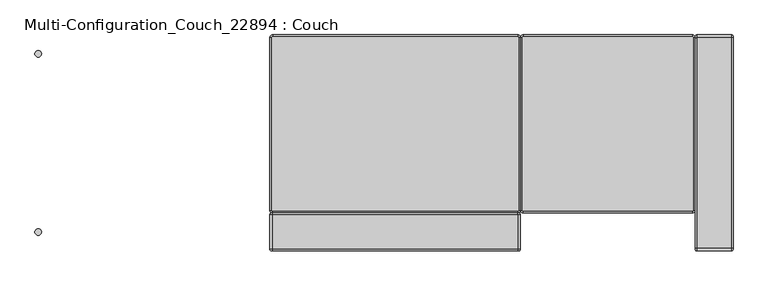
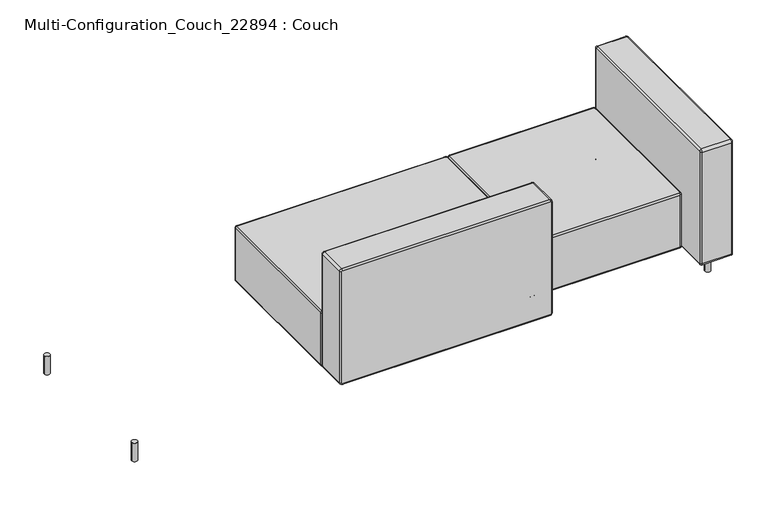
"""IFC4 building model written with IfcOpenShell, lengths in millimetres: furniture geometry, Multi-Configuration_Couch_22894 : Couch."""

from ifc_helpers import new_model, si_unit, point, frame, frame_2d, origin, origin_with_axes, place, context, project, spatial, circle_curve, ellipse_curve, trimmed, segment, composite_curve, outline, extrude, source, transform, mapped, element, save
from ifc_brep_helpers import plane_surface, cylinder_surface, revolved_surface, advanced_brep


def multi_configuration_couch_22894_couch_a3e35ec5(model_context):
    return source(origin(), model_context, "Body", "SolidModel", [
        advanced_brep(
        [(1278.2237705, -114.3520492, 304.8), (1275.0487705, -111.1770492, 304.8), (709.8987705, -111.1770492, 304.8), (706.7237705, -114.3520492, 304.8), (706.7237705, -692.2020492, 304.8), (709.8987705, -695.3770492, 304.8), (1275.0487705, -695.3770492, 304.8), (1278.2237705, -692.2020492, 304.8), (1278.2237705, -692.2020492, 76.2), (1275.0487705, -695.3770492, 76.2), (709.8987705, -695.3770492, 76.2), (706.7237705, -692.2020492, 76.2), (706.7237705, -114.3520492, 76.2), (709.8987705, -111.1770492, 76.2), (1275.0487705, -111.1770492, 76.2), (1278.2237705, -114.3520492, 76.2), (1275.0487705, -104.8270492, 298.45), (1275.0487705, -104.8270492, 82.55), (709.8987705, -104.8270492, 82.55), (709.8987705, -104.8270492, 298.4500064), (1284.5737705, -692.2020492, 298.45), (1284.5737705, -692.2020492, 82.55), (1284.5737705, -114.3520492, 82.55), (1284.5737705, -114.3520492, 298.45), (709.8987705, -701.7270492, 298.45), (709.8987705, -701.7270492, 82.55), (1275.0487705, -701.7270492, 82.55), (1275.0487705, -701.7270492, 298.45), (700.3737705, -114.3520492, 298.45), (700.3737705, -114.3520492, 82.55), (700.3737705, -692.2020492, 82.55), (700.3737705, -692.2020492, 298.45)],
        [
            (0, 1, circle_curve(frame((1275.0487705, -114.3520492, 304.8), z_axis=(0.0, 0.0, 1.0), x_axis=(0.0, 1.0, 0.0)), 3.175)),
            (1, 2),
            (2, 3, circle_curve(frame((709.8987705, -114.3520492, 304.8), z_axis=(0.0, 0.0, 1.0), x_axis=(-1.0, 0.0, 0.0)), 3.175)),
            (3, 4),
            (4, 5, circle_curve(frame((709.8987705, -692.2020492, 304.8), z_axis=(0.0, 0.0, 1.0), x_axis=(0.0, -1.0, 0.0)), 3.175)),
            (5, 6),
            (6, 7, circle_curve(frame((1275.0487705, -692.2020492, 304.8), z_axis=(0.0, 0.0, 1.0), x_axis=(1.0, 0.0, 0.0)), 3.175)),
            (7, 0),
            (8, 9, circle_curve(frame((1275.0487705, -692.2020492, 76.2), z_axis=(0.0, 0.0, -1.0), x_axis=(1.0, 0.0, 0.0)), 3.175)),
            (9, 10),
            (10, 11, circle_curve(frame((709.8987705, -692.2020492, 76.2), z_axis=(0.0, 0.0, -1.0), x_axis=(0.0, -1.0, 0.0)), 3.175)),
            (11, 12),
            (12, 13, circle_curve(frame((709.8987705, -114.3520492, 76.2), z_axis=(0.0, 0.0, -1.0), x_axis=(-1.0, 0.0, 0.0)), 3.175)),
            (13, 14),
            (14, 15, circle_curve(frame((1275.0487705, -114.3520492, 76.2), z_axis=(0.0, 0.0, -1.0), x_axis=(0.0, 1.0, 0.0)), 3.175)),
            (15, 8),
            (16, 17),
            (17, 18),
            (18, 19),
            (19, 16),
            (20, 21),
            (21, 22),
            (22, 23),
            (23, 20),
            (24, 25),
            (25, 26),
            (26, 27),
            (27, 24),
            (28, 29),
            (29, 30),
            (30, 31),
            (31, 28),
            (22, 17, circle_curve(frame((1275.0487705, -114.3520492, 82.55), z_axis=(0.0, 0.0, 1.0), x_axis=(-1.0, 0.0, 0.0)), 9.525)),
            (16, 23, circle_curve(frame((1275.0487705, -114.3520492, 298.45), z_axis=(0.0, 0.0, -1.0), x_axis=(-1.0, 0.0, 0.0)), 9.525)),
            (18, 29, circle_curve(frame((709.8987705, -114.3520492, 82.55), z_axis=(0.0, 0.0, 1.0), x_axis=(-1.0, 0.0, 0.0)), 9.525)),
            (28, 19, circle_curve(frame((709.8987705, -114.3520492, 298.45), z_axis=(0.0, 0.0, -1.0), x_axis=(-1.0, 0.0, 0.0)), 9.525)),
            (26, 21, circle_curve(frame((1275.0487705, -692.2020492, 82.55), z_axis=(0.0, 0.0, 1.0), x_axis=(-1.0, 0.0, 0.0)), 9.525)),
            (20, 27, circle_curve(frame((1275.0487705, -692.2020492, 298.45), z_axis=(0.0, 0.0, -1.0), x_axis=(-1.0, 0.0, 0.0)), 9.525)),
            (30, 25, circle_curve(frame((709.8987705, -692.2020492, 82.55), z_axis=(0.0, 0.0, 1.0), x_axis=(-1.0, 0.0, 0.0)), 9.525)),
            (24, 31, circle_curve(frame((709.8987705, -692.2020492, 298.45), z_axis=(0.0, 0.0, -1.0), x_axis=(-1.0, 0.0, 0.0)), 9.525)),
            (23, 0, circle_curve(frame((1278.2237705, -114.3520492, 298.45), z_axis=(0.0, -1.0, 0.0), x_axis=(-1.0, 0.0, 0.0)), 6.35)),
            (7, 20, circle_curve(frame((1278.2237705, -692.2020492, 298.45), z_axis=(0.0, 1.0, 0.0), x_axis=(-1.0, 0.0, 0.0)), 6.35)),
            (27, 6, circle_curve(frame((1275.0487705, -695.3770492, 298.45), z_axis=(-1.0, 0.0, 0.0), x_axis=(0.0, 1.0, 0.0)), 6.35)),
            (5, 24, circle_curve(frame((709.8987705, -695.3770492, 298.45), z_axis=(1.0, 0.0, 0.0), x_axis=(0.0, 1.0, 0.0)), 6.35)),
            (31, 4, circle_curve(frame((706.7237705, -692.2020492, 298.45), z_axis=(0.0, 1.0, 0.0), x_axis=(1.0, 0.0, 0.0)), 6.35)),
            (3, 28, circle_curve(frame((706.7237705, -114.3520492, 298.45), z_axis=(0.0, -1.0, 0.0), x_axis=(1.0, 0.0, 0.0)), 6.35)),
            (2, 19, circle_curve(frame((709.8987705, -111.1770492, 298.45), z_axis=(-1.0, 0.0, 0.0), x_axis=(0.0, -1.0, 0.0)), 6.35)),
            (1, 16, circle_curve(frame((1275.0487705, -111.1770492, 298.45), z_axis=(-1.0, 0.0, 0.0), x_axis=(0.0, -1.0, 0.0)), 6.35)),
            (15, 22, circle_curve(frame((1278.2237705, -114.3520492, 82.55), z_axis=(0.0, -1.0, 0.0), x_axis=(-1.0, 0.0, 0.0)), 6.35)),
            (21, 8, circle_curve(frame((1278.2237705, -692.2020492, 82.55), z_axis=(0.0, 1.0, 0.0), x_axis=(-1.0, 0.0, 0.0)), 6.35)),
            (9, 26, circle_curve(frame((1275.0487705, -695.3770492, 82.55), z_axis=(-1.0, 0.0, 0.0), x_axis=(0.0, 1.0, 0.0)), 6.35)),
            (25, 10, circle_curve(frame((709.8987705, -695.3770492, 82.55), z_axis=(1.0, 0.0, 0.0), x_axis=(0.0, 1.0, 0.0)), 6.35)),
            (11, 30, circle_curve(frame((706.7237705, -692.2020492, 82.55), z_axis=(0.0, 1.0, 0.0), x_axis=(1.0, 0.0, 0.0)), 6.35)),
            (29, 12, circle_curve(frame((706.7237705, -114.3520492, 82.55), z_axis=(0.0, -1.0, 0.0), x_axis=(1.0, 0.0, 0.0)), 6.35)),
            (13, 18, circle_curve(frame((709.8987705, -111.1770492, 82.55), z_axis=(1.0, 0.0, 0.0), x_axis=(0.0, -1.0, 0.0)), 6.35)),
            (17, 14, circle_curve(frame((1275.0487705, -111.1770492, 82.55), z_axis=(-1.0, 0.0, 0.0), x_axis=(0.0, -1.0, 0.0)), 6.35)),
        ],
        [
            plane_surface(frame((1284.5737705, -104.8270492, 304.8), z_axis=(0.0, 0.0, 1.0), x_axis=(1.0, 0.0, 0.0))),
            plane_surface(frame((1284.5737705, -104.8270492, 76.2), z_axis=(0.0, 0.0, -1.0), x_axis=(-1.0, 0.0, 0.0))),
            plane_surface(frame((700.3737705, -104.8270492, 304.8), z_axis=(0.0, 1.0, 0.0), x_axis=(0.0, 0.0, -1.0))),
            plane_surface(frame((1284.5737705, -104.8270492, 304.8), z_axis=(1.0, 0.0, 0.0), x_axis=(0.0, 0.0, -1.0))),
            plane_surface(frame((1284.5737705, -701.7270492, 304.8), z_axis=(0.0, -1.0, 0.0), x_axis=(0.0, 0.0, -1.0))),
            plane_surface(frame((700.3737705, -701.7270492, 304.8), z_axis=(-1.0, 0.0, 0.0), x_axis=(0.0, 0.0, -1.0))),
            cylinder_surface(frame((1275.0487705, -114.3520492, 76.2), z_axis=(0.0, 0.0, -1.0), x_axis=(-1.0, 0.0, 0.0)), 9.525),
            cylinder_surface(frame((709.8987705, -114.3520492, 76.2), z_axis=(0.0, 0.0, -1.0), x_axis=(-1.0, 0.0, 0.0)), 9.525),
            cylinder_surface(frame((1275.0487705, -692.2020492, 76.2), z_axis=(0.0, 0.0, -1.0), x_axis=(-1.0, 0.0, 0.0)), 9.525),
            cylinder_surface(frame((709.8987705, -692.2020492, 76.2), z_axis=(0.0, 0.0, -1.0), x_axis=(-1.0, 0.0, 0.0)), 9.525),
            cylinder_surface(frame((1278.2237705, -114.3520492, 298.45), z_axis=(0.0, -1.0, 0.0), x_axis=(-1.0, 0.0, 0.0)), 6.35),
            cylinder_surface(frame((1275.0487705, -695.3770492, 298.45), z_axis=(-1.0, 0.0, 0.0), x_axis=(0.0, 1.0, 0.0)), 6.35),
            cylinder_surface(frame((706.7237705, -692.2020492, 298.45), z_axis=(0.0, 1.0, 0.0), x_axis=(1.0, 0.0, 0.0)), 6.35),
            revolved_surface(trimmed(ellipse_curve(frame((706.7237705, -114.3520492, 298.45), z_axis=(0.0, 1.0, 0.0), x_axis=(1.0, 0.0, 0.0)), 6.35, 6.35), [point((700.3737705, -114.3520492, 298.45))], [point((706.7237705, -114.3520492, 304.8))], True, "CARTESIAN"), (709.8987705, -114.3520492, 304.8), (0.0, 0.0, 1.0)),
            cylinder_surface(frame((709.8987705, -111.1770492, 298.45), z_axis=(1.0, 0.0, 0.0), x_axis=(0.0, -1.0, 0.0)), 6.35),
            cylinder_surface(frame((1278.2237705, -114.3520492, 82.55), z_axis=(0.0, -1.0, 0.0), x_axis=(-1.0, 0.0, 0.0)), 6.35),
            cylinder_surface(frame((1275.0487705, -695.3770492, 82.55), z_axis=(-1.0, 0.0, 0.0), x_axis=(0.0, 1.0, 0.0)), 6.35),
            cylinder_surface(frame((706.7237705, -692.2020492, 82.55), z_axis=(0.0, 1.0, 0.0), x_axis=(1.0, 0.0, 0.0)), 6.35),
            cylinder_surface(frame((709.8987705, -111.1770492, 82.55), z_axis=(1.0, 0.0, 0.0), x_axis=(0.0, -1.0, 0.0)), 6.35),
            revolved_surface(trimmed(ellipse_curve(frame((1275.0487705, -111.1770492, 298.45), z_axis=(1.0, 0.0, 0.0), x_axis=(0.0, -1.0, 0.0)), 6.35, 6.35), [point((1275.0487705, -104.8270492, 298.45))], [point((1275.0487705, -111.1770492, 304.8))], True, "CARTESIAN"), (1275.0487705, -114.3520492, 304.8), (0.0, 0.0, 1.0)),
            revolved_surface(trimmed(ellipse_curve(frame((1278.2237705, -692.2020492, 298.45), z_axis=(0.0, -1.0, 0.0), x_axis=(-1.0, 0.0, 0.0)), 6.35, 6.35), [point((1284.5737705, -692.2020492, 298.45))], [point((1278.2237705, -692.2020492, 304.8))], True, "CARTESIAN"), (1275.0487705, -692.2020492, 304.8), (0.0, 0.0, 1.0)),
            revolved_surface(trimmed(ellipse_curve(frame((709.8987705, -695.3770492, 298.45), z_axis=(-1.0, 0.0, 0.0), x_axis=(0.0, 1.0, 0.0)), 6.35, 6.35), [point((709.8987705, -701.7270492, 298.45))], [point((709.8987705, -695.3770492, 304.8))], True, "CARTESIAN"), (709.8987705, -692.2020492, 304.8), (0.0, 0.0, 1.0)),
            revolved_surface(trimmed(ellipse_curve(frame((1275.0487705, -111.1770492, 82.55), z_axis=(1.0, 0.0, 0.0), x_axis=(0.0, -1.0, 0.0)), 6.35, 6.35), [point((1275.0487705, -111.1770492, 76.2))], [point((1275.0487705, -104.8270492, 82.55))], True, "CARTESIAN"), (1275.0487705, -114.3520492, 76.2), (0.0, 0.0, 1.0)),
            revolved_surface(trimmed(ellipse_curve(frame((1278.2237705, -692.2020492, 82.55), z_axis=(0.0, -1.0, 0.0), x_axis=(-1.0, 0.0, 0.0)), 6.35, 6.35), [point((1278.2237705, -692.2020492, 76.2))], [point((1284.5737705, -692.2020492, 82.55))], True, "CARTESIAN"), (1275.0487705, -692.2020492, 76.2), (0.0, 0.0, 1.0)),
            revolved_surface(trimmed(ellipse_curve(frame((709.8987705, -695.3770492, 82.55), z_axis=(-1.0, 0.0, 0.0), x_axis=(0.0, 1.0, 0.0)), 6.35, 6.35), [point((709.8987705, -695.3770492, 76.2))], [point((709.8987705, -701.7270492, 82.55))], True, "CARTESIAN"), (709.8987705, -692.2020492, 76.2), (0.0, 0.0, 1.0)),
            revolved_surface(trimmed(ellipse_curve(frame((706.7237705, -114.3520492, 82.55), z_axis=(0.0, 1.0, 0.0), x_axis=(1.0, 0.0, 0.0)), 6.35, 6.35), [point((706.7237705, -114.3520492, 76.2))], [point((700.3737705, -114.3520492, 82.55))], True, "CARTESIAN"), (709.8987705, -114.3520492, 76.2), (0.0, 0.0, 1.0)),
        ],
        [
            (0, [[1, 2, 3, 4, 5, 6, 7, 8]]),
            (1, [[9, 10, 11, 12, 13, 14, 15, 16]]),
            (2, [[17, 18, 19, 20]]),
            (3, [[21, 22, 23, 24]]),
            (4, [[25, 26, 27, 28]]),
            (5, [[29, 30, 31, 32]]),
            (6, [[-23, 33, -17, 34]]),
            (7, [[-19, 35, -29, 36]]),
            (8, [[-27, 37, -21, 38]]),
            (9, [[-31, 39, -25, 40]]),
            (10, [[-24, 41, -8, 42]]),
            (11, [[-28, 43, -6, 44]]),
            (12, [[-32, 45, -4, 46]]),
            (13, [[-3, 47, -36, -46]]),
            (14, [[-2, 48, -20, -47]]),
            (15, [[-16, 49, -22, 50]]),
            (16, [[-10, 51, -26, 52]]),
            (17, [[-12, 53, -30, 54]]),
            (18, [[-14, 55, -18, 56]]),
            (19, [[-34, -48, -1, -41]]),
            (20, [[-7, -43, -38, -42]]),
            (21, [[-5, -45, -40, -44]]),
            (22, [[-15, -56, -33, -49]]),
            (23, [[-37, -51, -9, -50]]),
            (24, [[-39, -53, -11, -52]]),
            (25, [[-35, -55, -13, -54]]),
        ],
    ),
        advanced_brep(
        [(-131.4762295, -701.7270492, 549.275), (-128.3012295, -701.7270492, 552.45), (690.8487705, -701.7270492, 552.45), (694.0237705, -701.7270492, 549.275), (694.0237705, -701.7270492, 85.725), (690.8487705, -701.7270492, 82.55), (-128.3012295, -701.7270492, 82.55), (-131.4762295, -701.7270492, 85.725), (-131.4762295, -828.7270492, 85.725), (-128.3012295, -828.7270492, 82.55), (690.8487705, -828.7270492, 82.55), (694.0237705, -828.7270492, 85.725), (694.0237705, -828.7270492, 549.275), (690.8487705, -828.7270492, 552.45), (-128.3012295, -828.7270492, 552.45), (-131.4762295, -828.7270492, 549.275), (-128.3012295, -708.0770492, 558.8), (-128.3012295, -822.3770492, 558.8), (690.8487705, -822.3770492, 558.8), (690.8487705, -708.0770428, 558.8), (-137.8262295, -708.0770492, 85.725), (-137.8262295, -822.3770492, 85.725), (-137.8262295, -822.3770492, 549.275), (-137.8262295, -708.0770492, 549.275), (690.8487705, -708.0770492, 76.2), (690.8487705, -822.3770492, 76.2), (-128.3012295, -822.3770492, 76.2), (-128.3012295, -708.0770492, 76.2), (700.3737705, -708.0770492, 549.275), (700.3737705, -822.3770492, 549.275), (700.3737705, -822.3770492, 85.725), (700.3737705, -708.0770492, 85.725)],
        [
            (0, 1, circle_curve(frame((-128.3012295, -701.7270492, 549.275), z_axis=(0.0, 1.0, 0.0), x_axis=(0.0, 0.0, 1.0)), 3.175)),
            (1, 2),
            (2, 3, circle_curve(frame((690.8487705, -701.7270492, 549.275), z_axis=(0.0, 1.0, 0.0), x_axis=(1.0, 0.0, 0.0)), 3.175)),
            (3, 4),
            (4, 5, circle_curve(frame((690.8487705, -701.7270492, 85.725), z_axis=(0.0, 1.0, 0.0), x_axis=(0.0, 0.0, -1.0)), 3.175)),
            (5, 6),
            (6, 7, circle_curve(frame((-128.3012295, -701.7270492, 85.725), z_axis=(0.0, 1.0, 0.0), x_axis=(-1.0, 0.0, 0.0)), 3.175)),
            (7, 0),
            (8, 9, circle_curve(frame((-128.3012295, -828.7270492, 85.725), z_axis=(0.0, -1.0, 0.0), x_axis=(-1.0, 0.0, 0.0)), 3.175)),
            (9, 10),
            (10, 11, circle_curve(frame((690.8487705, -828.7270492, 85.725), z_axis=(0.0, -1.0, 0.0), x_axis=(0.0, 0.0, -1.0)), 3.175)),
            (11, 12),
            (12, 13, circle_curve(frame((690.8487705, -828.7270492, 549.275), z_axis=(0.0, -1.0, 0.0), x_axis=(1.0, 0.0, 0.0)), 3.175)),
            (13, 14),
            (14, 15, circle_curve(frame((-128.3012295, -828.7270492, 549.275), z_axis=(0.0, -1.0, 0.0), x_axis=(0.0, 0.0, 1.0)), 3.175)),
            (15, 8),
            (16, 17),
            (17, 18),
            (18, 19),
            (19, 16),
            (20, 21),
            (21, 22),
            (22, 23),
            (23, 20),
            (24, 25),
            (25, 26),
            (26, 27),
            (27, 24),
            (28, 29),
            (29, 30),
            (30, 31),
            (31, 28),
            (22, 17, circle_curve(frame((-128.3012295, -822.3770492, 549.275), z_axis=(0.0, 1.0, 0.0), x_axis=(1.0, 0.0, 0.0)), 9.525)),
            (16, 23, circle_curve(frame((-128.3012295, -708.0770492, 549.275), z_axis=(0.0, -1.0, 0.0), x_axis=(1.0, 0.0, 0.0)), 9.525)),
            (18, 29, circle_curve(frame((690.8487705, -822.3770492, 549.275), z_axis=(0.0, 1.0, 0.0), x_axis=(1.0, 0.0, 0.0)), 9.525)),
            (28, 19, circle_curve(frame((690.8487705, -708.0770492, 549.275), z_axis=(0.0, -1.0, 0.0), x_axis=(1.0, 0.0, 0.0)), 9.525)),
            (26, 21, circle_curve(frame((-128.3012295, -822.3770492, 85.725), z_axis=(0.0, 1.0, 0.0), x_axis=(1.0, 0.0, 0.0)), 9.525)),
            (20, 27, circle_curve(frame((-128.3012295, -708.0770492, 85.725), z_axis=(0.0, -1.0, 0.0), x_axis=(1.0, 0.0, 0.0)), 9.525)),
            (30, 25, circle_curve(frame((690.8487705, -822.3770492, 85.725), z_axis=(0.0, 1.0, 0.0), x_axis=(1.0, 0.0, 0.0)), 9.525)),
            (24, 31, circle_curve(frame((690.8487705, -708.0770492, 85.725), z_axis=(0.0, -1.0, 0.0), x_axis=(1.0, 0.0, 0.0)), 9.525)),
            (23, 0, circle_curve(frame((-131.4762295, -708.0770492, 549.275), z_axis=(0.0, 0.0, -1.0), x_axis=(1.0, 0.0, 0.0)), 6.35)),
            (7, 20, circle_curve(frame((-131.4762295, -708.0770492, 85.725), z_axis=(0.0, 0.0, 1.0), x_axis=(1.0, 0.0, 0.0)), 6.35)),
            (27, 6, circle_curve(frame((-128.3012295, -708.0770492, 82.55), z_axis=(1.0, 0.0, 0.0), x_axis=(0.0, 0.0, 1.0)), 6.35)),
            (5, 24, circle_curve(frame((690.8487705, -708.0770492, 82.55), z_axis=(-1.0, 0.0, 0.0), x_axis=(0.0, 0.0, 1.0)), 6.35)),
            (31, 4, circle_curve(frame((694.0237705, -708.0770492, 85.725), z_axis=(0.0, 0.0, 1.0), x_axis=(-1.0, 0.0, 0.0)), 6.35)),
            (3, 28, circle_curve(frame((694.0237705, -708.0770492, 549.275), z_axis=(0.0, 0.0, -1.0), x_axis=(-1.0, 0.0, 0.0)), 6.35)),
            (2, 19, circle_curve(frame((690.8487705, -708.0770492, 552.45), z_axis=(1.0, 0.0, 0.0), x_axis=(0.0, 0.0, -1.0)), 6.35)),
            (1, 16, circle_curve(frame((-128.3012295, -708.0770492, 552.45), z_axis=(1.0, 0.0, 0.0), x_axis=(0.0, 0.0, -1.0)), 6.35)),
            (15, 22, circle_curve(frame((-131.4762295, -822.3770492, 549.275), z_axis=(0.0, 0.0, -1.0), x_axis=(1.0, 0.0, 0.0)), 6.35)),
            (21, 8, circle_curve(frame((-131.4762295, -822.3770492, 85.725), z_axis=(0.0, 0.0, 1.0), x_axis=(1.0, 0.0, 0.0)), 6.35)),
            (9, 26, circle_curve(frame((-128.3012295, -822.3770492, 82.55), z_axis=(1.0, 0.0, 0.0), x_axis=(0.0, 0.0, 1.0)), 6.35)),
            (25, 10, circle_curve(frame((690.8487705, -822.3770492, 82.55), z_axis=(-1.0, 0.0, 0.0), x_axis=(0.0, 0.0, 1.0)), 6.35)),
            (11, 30, circle_curve(frame((694.0237705, -822.3770492, 85.725), z_axis=(0.0, 0.0, 1.0), x_axis=(-1.0, 0.0, 0.0)), 6.35)),
            (29, 12, circle_curve(frame((694.0237705, -822.3770492, 549.275), z_axis=(0.0, 0.0, -1.0), x_axis=(-1.0, 0.0, 0.0)), 6.35)),
            (13, 18, circle_curve(frame((690.8487705, -822.3770492, 552.45), z_axis=(-1.0, 0.0, 0.0), x_axis=(0.0, 0.0, -1.0)), 6.35)),
            (17, 14, circle_curve(frame((-128.3012295, -822.3770492, 552.45), z_axis=(1.0, 0.0, 0.0), x_axis=(0.0, 0.0, -1.0)), 6.35)),
        ],
        [
            plane_surface(frame((-137.8262295, -701.7270492, 558.8), z_axis=(0.0, 1.0, 0.0), x_axis=(-1.0, 0.0, 0.0))),
            plane_surface(frame((-137.8262295, -828.7270492, 558.8), z_axis=(0.0, -1.0, 0.0), x_axis=(1.0, 0.0, 0.0))),
            plane_surface(frame((700.3737705, -701.7270492, 558.8), z_axis=(0.0, 0.0, 1.0), x_axis=(0.0, -1.0, 0.0))),
            plane_surface(frame((-137.8262295, -701.7270492, 558.8), z_axis=(-1.0, 0.0, 0.0), x_axis=(0.0, -1.0, 0.0))),
            plane_surface(frame((-137.8262295, -701.7270492, 76.2), z_axis=(0.0, 0.0, -1.0), x_axis=(0.0, -1.0, 0.0))),
            plane_surface(frame((700.3737705, -701.7270492, 76.2), z_axis=(1.0, 0.0, 0.0), x_axis=(0.0, -1.0, 0.0))),
            cylinder_surface(frame((-128.3012295, -828.7270492, 549.275), z_axis=(0.0, -1.0, 0.0), x_axis=(1.0, 0.0, 0.0)), 9.525),
            cylinder_surface(frame((690.8487705, -828.7270492, 549.275), z_axis=(0.0, -1.0, 0.0), x_axis=(1.0, 0.0, 0.0)), 9.525),
            cylinder_surface(frame((-128.3012295, -828.7270492, 85.725), z_axis=(0.0, -1.0, 0.0), x_axis=(1.0, 0.0, 0.0)), 9.525),
            cylinder_surface(frame((690.8487705, -828.7270492, 85.725), z_axis=(0.0, -1.0, 0.0), x_axis=(1.0, 0.0, 0.0)), 9.525),
            cylinder_surface(frame((-131.4762295, -708.0770492, 549.275), z_axis=(0.0, 0.0, -1.0), x_axis=(1.0, 0.0, 0.0)), 6.35),
            cylinder_surface(frame((-128.3012295, -708.0770492, 82.55), z_axis=(1.0, 0.0, 0.0), x_axis=(0.0, 0.0, 1.0)), 6.35),
            cylinder_surface(frame((694.0237705, -708.0770492, 85.725), z_axis=(0.0, 0.0, 1.0), x_axis=(-1.0, 0.0, 0.0)), 6.35),
            revolved_surface(trimmed(ellipse_curve(frame((694.0237705, -708.0770492, 549.275), z_axis=(0.0, 0.0, 1.0), x_axis=(-1.0, 0.0, 0.0)), 6.35, 6.35), [point((700.3737705, -708.0770492, 549.275))], [point((694.0237705, -701.7270492, 549.275))], True, "CARTESIAN"), (690.8487705, -701.7270492, 549.275), (0.0, 1.0, 0.0)),
            cylinder_surface(frame((690.8487705, -708.0770492, 552.45), z_axis=(-1.0, 0.0, 0.0), x_axis=(0.0, 0.0, -1.0)), 6.35),
            cylinder_surface(frame((-131.4762295, -822.3770492, 549.275), z_axis=(0.0, 0.0, -1.0), x_axis=(1.0, 0.0, 0.0)), 6.35),
            cylinder_surface(frame((-128.3012295, -822.3770492, 82.55), z_axis=(1.0, 0.0, 0.0), x_axis=(0.0, 0.0, 1.0)), 6.35),
            cylinder_surface(frame((694.0237705, -822.3770492, 85.725), z_axis=(0.0, 0.0, 1.0), x_axis=(-1.0, 0.0, 0.0)), 6.35),
            cylinder_surface(frame((690.8487705, -822.3770492, 552.45), z_axis=(-1.0, 0.0, 0.0), x_axis=(0.0, 0.0, -1.0)), 6.35),
            revolved_surface(trimmed(ellipse_curve(frame((-128.3012295, -708.0770492, 552.45), z_axis=(-1.0, 0.0, 0.0), x_axis=(0.0, 0.0, -1.0)), 6.35, 6.35), [point((-128.3012295, -708.0770492, 558.8))], [point((-128.3012295, -701.7270492, 552.45))], True, "CARTESIAN"), (-128.3012295, -701.7270492, 549.275), (0.0, 1.0, 0.0)),
            revolved_surface(trimmed(ellipse_curve(frame((-131.4762295, -708.0770492, 85.725), z_axis=(0.0, 0.0, -1.0), x_axis=(1.0, 0.0, 0.0)), 6.35, 6.35), [point((-137.8262295, -708.0770492, 85.725))], [point((-131.4762295, -701.7270492, 85.725))], True, "CARTESIAN"), (-128.3012295, -701.7270492, 85.725), (0.0, 1.0, 0.0)),
            revolved_surface(trimmed(ellipse_curve(frame((690.8487705, -708.0770492, 82.55), z_axis=(1.0, 0.0, 0.0), x_axis=(0.0, 0.0, 1.0)), 6.35, 6.35), [point((690.8487705, -708.0770492, 76.2))], [point((690.8487705, -701.7270492, 82.55))], True, "CARTESIAN"), (690.8487705, -701.7270492, 85.725), (0.0, 1.0, 0.0)),
            revolved_surface(trimmed(ellipse_curve(frame((-128.3012295, -822.3770492, 552.45), z_axis=(-1.0, 0.0, 0.0), x_axis=(0.0, 0.0, -1.0)), 6.35, 6.35), [point((-128.3012295, -828.7270492, 552.45))], [point((-128.3012295, -822.3770492, 558.8))], True, "CARTESIAN"), (-128.3012295, -828.7270492, 549.275), (0.0, 1.0, 0.0)),
            revolved_surface(trimmed(ellipse_curve(frame((-131.4762295, -822.3770492, 85.725), z_axis=(0.0, 0.0, -1.0), x_axis=(1.0, 0.0, 0.0)), 6.35, 6.35), [point((-131.4762295, -828.7270492, 85.725))], [point((-137.8262295, -822.3770492, 85.725))], True, "CARTESIAN"), (-128.3012295, -828.7270492, 85.725), (0.0, 1.0, 0.0)),
            revolved_surface(trimmed(ellipse_curve(frame((690.8487705, -822.3770492, 82.55), z_axis=(1.0, 0.0, 0.0), x_axis=(0.0, 0.0, 1.0)), 6.35, 6.35), [point((690.8487705, -828.7270492, 82.55))], [point((690.8487705, -822.3770492, 76.2))], True, "CARTESIAN"), (690.8487705, -828.7270492, 85.725), (0.0, 1.0, 0.0)),
            revolved_surface(trimmed(ellipse_curve(frame((694.0237705, -822.3770492, 549.275), z_axis=(0.0, 0.0, 1.0), x_axis=(-1.0, 0.0, 0.0)), 6.35, 6.35), [point((694.0237705, -828.7270492, 549.275))], [point((700.3737705, -822.3770492, 549.275))], True, "CARTESIAN"), (690.8487705, -828.7270492, 549.275), (0.0, 1.0, 0.0)),
        ],
        [
            (0, [[1, 2, 3, 4, 5, 6, 7, 8]]),
            (1, [[9, 10, 11, 12, 13, 14, 15, 16]]),
            (2, [[17, 18, 19, 20]]),
            (3, [[21, 22, 23, 24]]),
            (4, [[25, 26, 27, 28]]),
            (5, [[29, 30, 31, 32]]),
            (6, [[-23, 33, -17, 34]]),
            (7, [[-19, 35, -29, 36]]),
            (8, [[-27, 37, -21, 38]]),
            (9, [[-31, 39, -25, 40]]),
            (10, [[-24, 41, -8, 42]]),
            (11, [[-28, 43, -6, 44]]),
            (12, [[-32, 45, -4, 46]]),
            (13, [[-3, 47, -36, -46]]),
            (14, [[-2, 48, -20, -47]]),
            (15, [[-16, 49, -22, 50]]),
            (16, [[-10, 51, -26, 52]]),
            (17, [[-12, 53, -30, 54]]),
            (18, [[-14, 55, -18, 56]]),
            (19, [[-34, -48, -1, -41]]),
            (20, [[-7, -43, -38, -42]]),
            (21, [[-5, -45, -40, -44]]),
            (22, [[-15, -56, -33, -49]]),
            (23, [[-37, -51, -9, -50]]),
            (24, [[-39, -53, -11, -52]]),
            (25, [[-35, -55, -13, -54]]),
        ],
    ),
        advanced_brep(
        [(1284.5737705, -822.3770492, 549.275), (1284.5737705, -819.2020492, 552.45), (1284.5737705, -114.3520492, 552.45), (1284.5737705, -111.1770492, 549.275), (1284.5737705, -111.1770492, 85.725), (1284.5737705, -114.3520492, 82.55), (1284.5737705, -819.2020492, 82.55), (1284.5737705, -822.3770492, 85.725), (1411.5737705, -822.3770492, 85.725), (1411.5737705, -819.2020492, 82.55), (1411.5737705, -114.3520492, 82.55), (1411.5737705, -111.1770492, 85.725), (1411.5737705, -111.1770492, 549.275), (1411.5737705, -114.3520492, 552.45), (1411.5737705, -819.2020492, 552.45), (1411.5737705, -822.3770492, 549.275), (1290.9237705, -819.2020492, 558.8), (1405.2237705, -819.2020492, 558.8), (1405.2237705, -114.3520492, 558.8), (1290.9237641, -114.3520492, 558.8), (1290.9237705, -828.7270492, 85.725), (1405.2237705, -828.7270492, 85.725), (1405.2237705, -828.7270492, 549.275), (1290.9237705, -828.7270492, 549.275), (1290.9237705, -114.3520492, 76.2), (1405.2237705, -114.3520492, 76.2), (1405.2237705, -819.2020492, 76.2), (1290.9237705, -819.2020492, 76.2), (1290.9237705, -104.8270492, 549.275), (1405.2237705, -104.8270492, 549.275), (1405.2237705, -104.8270492, 85.725), (1290.9237705, -104.8270492, 85.725)],
        [
            (0, 1, circle_curve(frame((1284.5737705, -819.2020492, 549.275), z_axis=(-1.0, 0.0, 0.0), x_axis=(0.0, 0.0, 1.0)), 3.175)),
            (1, 2),
            (2, 3, circle_curve(frame((1284.5737705, -114.3520492, 549.275), z_axis=(-1.0, 0.0, 0.0), x_axis=(0.0, 1.0, 0.0)), 3.175)),
            (3, 4),
            (4, 5, circle_curve(frame((1284.5737705, -114.3520492, 85.725), z_axis=(-1.0, 0.0, 0.0), x_axis=(0.0, 0.0, -1.0)), 3.175)),
            (5, 6),
            (6, 7, circle_curve(frame((1284.5737705, -819.2020492, 85.725), z_axis=(-1.0, 0.0, 0.0), x_axis=(0.0, -1.0, 0.0)), 3.175)),
            (7, 0),
            (8, 9, circle_curve(frame((1411.5737705, -819.2020492, 85.725), z_axis=(1.0, 0.0, 0.0), x_axis=(0.0, -1.0, 0.0)), 3.175)),
            (9, 10),
            (10, 11, circle_curve(frame((1411.5737705, -114.3520492, 85.725), z_axis=(1.0, 0.0, 0.0), x_axis=(0.0, 0.0, -1.0)), 3.175)),
            (11, 12),
            (12, 13, circle_curve(frame((1411.5737705, -114.3520492, 549.275), z_axis=(1.0, 0.0, 0.0), x_axis=(0.0, 1.0, 0.0)), 3.175)),
            (13, 14),
            (14, 15, circle_curve(frame((1411.5737705, -819.2020492, 549.275), z_axis=(1.0, 0.0, 0.0), x_axis=(0.0, 0.0, 1.0)), 3.175)),
            (15, 8),
            (16, 17),
            (17, 18),
            (18, 19),
            (19, 16),
            (20, 21),
            (21, 22),
            (22, 23),
            (23, 20),
            (24, 25),
            (25, 26),
            (26, 27),
            (27, 24),
            (28, 29),
            (29, 30),
            (30, 31),
            (31, 28),
            (22, 17, circle_curve(frame((1405.2237705, -819.2020492, 549.275), z_axis=(-1.0, 0.0, 0.0), x_axis=(0.0, 1.0, 0.0)), 9.525)),
            (16, 23, circle_curve(frame((1290.9237705, -819.2020492, 549.275), z_axis=(1.0, 0.0, 0.0), x_axis=(0.0, 1.0, 0.0)), 9.525)),
            (18, 29, circle_curve(frame((1405.2237705, -114.3520492, 549.275), z_axis=(-1.0, 0.0, 0.0), x_axis=(0.0, 1.0, 0.0)), 9.525)),
            (28, 19, circle_curve(frame((1290.9237705, -114.3520492, 549.275), z_axis=(1.0, 0.0, 0.0), x_axis=(0.0, 1.0, 0.0)), 9.525)),
            (26, 21, circle_curve(frame((1405.2237705, -819.2020492, 85.725), z_axis=(-1.0, 0.0, 0.0), x_axis=(0.0, 1.0, 0.0)), 9.525)),
            (20, 27, circle_curve(frame((1290.9237705, -819.2020492, 85.725), z_axis=(1.0, 0.0, 0.0), x_axis=(0.0, 1.0, 0.0)), 9.525)),
            (30, 25, circle_curve(frame((1405.2237705, -114.3520492, 85.725), z_axis=(-1.0, 0.0, 0.0), x_axis=(0.0, 1.0, 0.0)), 9.525)),
            (24, 31, circle_curve(frame((1290.9237705, -114.3520492, 85.725), z_axis=(1.0, 0.0, 0.0), x_axis=(0.0, 1.0, 0.0)), 9.525)),
            (23, 0, circle_curve(frame((1290.9237705, -822.3770492, 549.275), z_axis=(0.0, 0.0, -1.0), x_axis=(0.0, 1.0, 0.0)), 6.35)),
            (7, 20, circle_curve(frame((1290.9237705, -822.3770492, 85.725), z_axis=(0.0, 0.0, 1.0), x_axis=(0.0, 1.0, 0.0)), 6.35)),
            (27, 6, circle_curve(frame((1290.9237705, -819.2020492, 82.55), z_axis=(0.0, 1.0, 0.0), x_axis=(0.0, 0.0, 1.0)), 6.35)),
            (5, 24, circle_curve(frame((1290.9237705, -114.3520492, 82.55), z_axis=(0.0, -1.0, 0.0), x_axis=(0.0, 0.0, 1.0)), 6.35)),
            (31, 4, circle_curve(frame((1290.9237705, -111.1770492, 85.725), z_axis=(0.0, 0.0, 1.0), x_axis=(0.0, -1.0, 0.0)), 6.35)),
            (3, 28, circle_curve(frame((1290.9237705, -111.1770492, 549.275), z_axis=(0.0, 0.0, -1.0), x_axis=(0.0, -1.0, 0.0)), 6.35)),
            (2, 19, circle_curve(frame((1290.9237705, -114.3520492, 552.45), z_axis=(0.0, 1.0, 0.0), x_axis=(0.0, 0.0, -1.0)), 6.35)),
            (1, 16, circle_curve(frame((1290.9237705, -819.2020492, 552.45), z_axis=(0.0, 1.0, 0.0), x_axis=(0.0, 0.0, -1.0)), 6.35)),
            (15, 22, circle_curve(frame((1405.2237705, -822.3770492, 549.275), z_axis=(0.0, 0.0, -1.0), x_axis=(0.0, 1.0, 0.0)), 6.35)),
            (21, 8, circle_curve(frame((1405.2237705, -822.3770492, 85.725), z_axis=(0.0, 0.0, 1.0), x_axis=(0.0, 1.0, 0.0)), 6.35)),
            (9, 26, circle_curve(frame((1405.2237705, -819.2020492, 82.55), z_axis=(0.0, 1.0, 0.0), x_axis=(0.0, 0.0, 1.0)), 6.35)),
            (25, 10, circle_curve(frame((1405.2237705, -114.3520492, 82.55), z_axis=(0.0, -1.0, 0.0), x_axis=(0.0, 0.0, 1.0)), 6.35)),
            (11, 30, circle_curve(frame((1405.2237705, -111.1770492, 85.725), z_axis=(0.0, 0.0, 1.0), x_axis=(0.0, -1.0, 0.0)), 6.35)),
            (29, 12, circle_curve(frame((1405.2237705, -111.1770492, 549.275), z_axis=(0.0, 0.0, -1.0), x_axis=(0.0, -1.0, 0.0)), 6.35)),
            (13, 18, circle_curve(frame((1405.2237705, -114.3520492, 552.45), z_axis=(0.0, -1.0, 0.0), x_axis=(0.0, 0.0, -1.0)), 6.35)),
            (17, 14, circle_curve(frame((1405.2237705, -819.2020492, 552.45), z_axis=(0.0, 1.0, 0.0), x_axis=(0.0, 0.0, -1.0)), 6.35)),
        ],
        [
            plane_surface(frame((1284.5737705, -828.7270492, 558.8), z_axis=(-1.0, 0.0, 0.0), x_axis=(0.0, -1.0, 0.0))),
            plane_surface(frame((1411.5737705, -828.7270492, 558.8), z_axis=(1.0, 0.0, 0.0), x_axis=(0.0, 1.0, 0.0))),
            plane_surface(frame((1284.5737705, -104.8270492, 558.8), z_axis=(0.0, 0.0, 1.0), x_axis=(1.0, 0.0, 0.0))),
            plane_surface(frame((1284.5737705, -828.7270492, 558.8), z_axis=(0.0, -1.0, 0.0), x_axis=(1.0, 0.0, 0.0))),
            plane_surface(frame((1284.5737705, -828.7270492, 76.2), z_axis=(0.0, 0.0, -1.0), x_axis=(1.0, 0.0, 0.0))),
            plane_surface(frame((1284.5737705, -104.8270492, 76.2), z_axis=(0.0, 1.0, 0.0), x_axis=(1.0, 0.0, 0.0))),
            cylinder_surface(frame((1411.5737705, -819.2020492, 549.275), z_axis=(1.0, 0.0, 0.0), x_axis=(0.0, 1.0, 0.0)), 9.525),
            cylinder_surface(frame((1411.5737705, -114.3520492, 549.275), z_axis=(1.0, 0.0, 0.0), x_axis=(0.0, 1.0, 0.0)), 9.525),
            cylinder_surface(frame((1411.5737705, -819.2020492, 85.725), z_axis=(1.0, 0.0, 0.0), x_axis=(0.0, 1.0, 0.0)), 9.525),
            cylinder_surface(frame((1411.5737705, -114.3520492, 85.725), z_axis=(1.0, 0.0, 0.0), x_axis=(0.0, 1.0, 0.0)), 9.525),
            cylinder_surface(frame((1290.9237705, -822.3770492, 549.275), z_axis=(0.0, 0.0, -1.0), x_axis=(0.0, 1.0, 0.0)), 6.35),
            cylinder_surface(frame((1290.9237705, -819.2020492, 82.55), z_axis=(0.0, 1.0, 0.0), x_axis=(0.0, 0.0, 1.0)), 6.35),
            cylinder_surface(frame((1290.9237705, -111.1770492, 85.725), z_axis=(0.0, 0.0, 1.0), x_axis=(0.0, -1.0, 0.0)), 6.35),
            revolved_surface(trimmed(ellipse_curve(frame((1290.9237705, -111.1770492, 549.275), z_axis=(0.0, 0.0, 1.0), x_axis=(0.0, -1.0, 0.0)), 6.35, 6.35), [point((1290.9237705, -104.8270492, 549.275))], [point((1284.5737705, -111.1770492, 549.275))], True, "CARTESIAN"), (1284.5737705, -114.3520492, 549.275), (-1.0, 0.0, 0.0)),
            cylinder_surface(frame((1290.9237705, -114.3520492, 552.45), z_axis=(0.0, -1.0, 0.0), x_axis=(0.0, 0.0, -1.0)), 6.35),
            cylinder_surface(frame((1405.2237705, -822.3770492, 549.275), z_axis=(0.0, 0.0, -1.0), x_axis=(0.0, 1.0, 0.0)), 6.35),
            cylinder_surface(frame((1405.2237705, -819.2020492, 82.55), z_axis=(0.0, 1.0, 0.0), x_axis=(0.0, 0.0, 1.0)), 6.35),
            cylinder_surface(frame((1405.2237705, -111.1770492, 85.725), z_axis=(0.0, 0.0, 1.0), x_axis=(0.0, -1.0, 0.0)), 6.35),
            cylinder_surface(frame((1405.2237705, -114.3520492, 552.45), z_axis=(0.0, -1.0, 0.0), x_axis=(0.0, 0.0, -1.0)), 6.35),
            revolved_surface(trimmed(ellipse_curve(frame((1290.9237705, -819.2020492, 552.45), z_axis=(0.0, -1.0, 0.0), x_axis=(0.0, 0.0, -1.0)), 6.35, 6.35), [point((1290.9237705, -819.2020492, 558.8))], [point((1284.5737705, -819.2020492, 552.45))], True, "CARTESIAN"), (1284.5737705, -819.2020492, 549.275), (-1.0, 0.0, 0.0)),
            revolved_surface(trimmed(ellipse_curve(frame((1290.9237705, -822.3770492, 85.725), z_axis=(0.0, 0.0, -1.0), x_axis=(0.0, 1.0, 0.0)), 6.35, 6.35), [point((1290.9237705, -828.7270492, 85.725))], [point((1284.5737705, -822.3770492, 85.725))], True, "CARTESIAN"), (1284.5737705, -819.2020492, 85.725), (-1.0, 0.0, 0.0)),
            revolved_surface(trimmed(ellipse_curve(frame((1290.9237705, -114.3520492, 82.55), z_axis=(0.0, 1.0, 0.0), x_axis=(0.0, 0.0, 1.0)), 6.35, 6.35), [point((1290.9237705, -114.3520492, 76.2))], [point((1284.5737705, -114.3520492, 82.55))], True, "CARTESIAN"), (1284.5737705, -114.3520492, 85.725), (-1.0, 0.0, 0.0)),
            revolved_surface(trimmed(ellipse_curve(frame((1405.2237705, -819.2020492, 552.45), z_axis=(0.0, -1.0, 0.0), x_axis=(0.0, 0.0, -1.0)), 6.35, 6.35), [point((1411.5737705, -819.2020492, 552.45))], [point((1405.2237705, -819.2020492, 558.8))], True, "CARTESIAN"), (1411.5737705, -819.2020492, 549.275), (-1.0, 0.0, 0.0)),
            revolved_surface(trimmed(ellipse_curve(frame((1405.2237705, -822.3770492, 85.725), z_axis=(0.0, 0.0, -1.0), x_axis=(0.0, 1.0, 0.0)), 6.35, 6.35), [point((1411.5737705, -822.3770492, 85.725))], [point((1405.2237705, -828.7270492, 85.725))], True, "CARTESIAN"), (1411.5737705, -819.2020492, 85.725), (-1.0, 0.0, 0.0)),
            revolved_surface(trimmed(ellipse_curve(frame((1405.2237705, -114.3520492, 82.55), z_axis=(0.0, 1.0, 0.0), x_axis=(0.0, 0.0, 1.0)), 6.35, 6.35), [point((1411.5737705, -114.3520492, 82.55))], [point((1405.2237705, -114.3520492, 76.2))], True, "CARTESIAN"), (1411.5737705, -114.3520492, 85.725), (-1.0, 0.0, 0.0)),
            revolved_surface(trimmed(ellipse_curve(frame((1405.2237705, -111.1770492, 549.275), z_axis=(0.0, 0.0, 1.0), x_axis=(0.0, -1.0, 0.0)), 6.35, 6.35), [point((1411.5737705, -111.1770492, 549.275))], [point((1405.2237705, -104.8270492, 549.275))], True, "CARTESIAN"), (1411.5737705, -114.3520492, 549.275), (-1.0, 0.0, 0.0)),
        ],
        [
            (0, [[1, 2, 3, 4, 5, 6, 7, 8]]),
            (1, [[9, 10, 11, 12, 13, 14, 15, 16]]),
            (2, [[17, 18, 19, 20]]),
            (3, [[21, 22, 23, 24]]),
            (4, [[25, 26, 27, 28]]),
            (5, [[29, 30, 31, 32]]),
            (6, [[-23, 33, -17, 34]]),
            (7, [[-19, 35, -29, 36]]),
            (8, [[-27, 37, -21, 38]]),
            (9, [[-31, 39, -25, 40]]),
            (10, [[-24, 41, -8, 42]]),
            (11, [[-28, 43, -6, 44]]),
            (12, [[-32, 45, -4, 46]]),
            (13, [[-3, 47, -36, -46]]),
            (14, [[-2, 48, -20, -47]]),
            (15, [[-16, 49, -22, 50]]),
            (16, [[-10, 51, -26, 52]]),
            (17, [[-12, 53, -30, 54]]),
            (18, [[-14, 55, -18, 56]]),
            (19, [[-34, -48, -1, -41]]),
            (20, [[-7, -43, -38, -42]]),
            (21, [[-5, -45, -40, -44]]),
            (22, [[-15, -56, -33, -49]]),
            (23, [[-37, -51, -9, -50]]),
            (24, [[-39, -53, -11, -52]]),
            (25, [[-35, -55, -13, -54]]),
        ],
    ),
        advanced_brep(
        [(694.0237705, -114.3520492, 304.8), (690.8487705, -111.1770492, 304.8), (-128.3012295, -111.1770492, 304.8), (-131.4762295, -114.3520492, 304.8), (-131.4762295, -692.2020492, 304.8), (-128.3012295, -695.3770492, 304.8), (690.8487705, -695.3770492, 304.8), (694.0237705, -692.2020492, 304.8), (694.0237705, -692.2020492, 76.2), (690.8487705, -695.3770492, 76.2), (-128.3012295, -695.3770492, 76.2), (-131.4762295, -692.2020492, 76.2), (-131.4762295, -114.3520492, 76.2), (-128.3012295, -111.1770492, 76.2), (690.8487705, -111.1770492, 76.2), (694.0237705, -114.3520492, 76.2), (690.8487705, -104.8270492, 298.45), (690.8487705, -104.8270492, 82.55), (-128.3012295, -104.8270492, 82.55), (-128.3012295, -104.8270492, 298.4500064), (700.3737705, -692.2020492, 298.45), (700.3737705, -692.2020492, 82.55), (700.3737705, -114.3520492, 82.55), (700.3737705, -114.3520492, 298.45), (-128.3012295, -701.7270492, 298.45), (-128.3012295, -701.7270492, 82.55), (690.8487705, -701.7270492, 82.55), (690.8487705, -701.7270492, 298.45), (-137.8262295, -114.3520492, 298.45), (-137.8262295, -114.3520492, 82.55), (-137.8262295, -692.2020492, 82.55), (-137.8262295, -692.2020492, 298.45)],
        [
            (0, 1, circle_curve(frame((690.8487705, -114.3520492, 304.8), z_axis=(0.0, 0.0, 1.0), x_axis=(0.0, 1.0, 0.0)), 3.175)),
            (1, 2),
            (2, 3, circle_curve(frame((-128.3012295, -114.3520492, 304.8), z_axis=(0.0, 0.0, 1.0), x_axis=(-1.0, 0.0, 0.0)), 3.175)),
            (3, 4),
            (4, 5, circle_curve(frame((-128.3012295, -692.2020492, 304.8), z_axis=(0.0, 0.0, 1.0), x_axis=(0.0, -1.0, 0.0)), 3.175)),
            (5, 6),
            (6, 7, circle_curve(frame((690.8487705, -692.2020492, 304.8), z_axis=(0.0, 0.0, 1.0), x_axis=(1.0, 0.0, 0.0)), 3.175)),
            (7, 0),
            (8, 9, circle_curve(frame((690.8487705, -692.2020492, 76.2), z_axis=(0.0, 0.0, -1.0), x_axis=(1.0, 0.0, 0.0)), 3.175)),
            (9, 10),
            (10, 11, circle_curve(frame((-128.3012295, -692.2020492, 76.2), z_axis=(0.0, 0.0, -1.0), x_axis=(0.0, -1.0, 0.0)), 3.175)),
            (11, 12),
            (12, 13, circle_curve(frame((-128.3012295, -114.3520492, 76.2), z_axis=(0.0, 0.0, -1.0), x_axis=(-1.0, 0.0, 0.0)), 3.175)),
            (13, 14),
            (14, 15, circle_curve(frame((690.8487705, -114.3520492, 76.2), z_axis=(0.0, 0.0, -1.0), x_axis=(0.0, 1.0, 0.0)), 3.175)),
            (15, 8),
            (16, 17),
            (17, 18),
            (18, 19),
            (19, 16),
            (20, 21),
            (21, 22),
            (22, 23),
            (23, 20),
            (24, 25),
            (25, 26),
            (26, 27),
            (27, 24),
            (28, 29),
            (29, 30),
            (30, 31),
            (31, 28),
            (22, 17, circle_curve(frame((690.8487705, -114.3520492, 82.55), z_axis=(0.0, 0.0, 1.0), x_axis=(-1.0, 0.0, 0.0)), 9.525)),
            (16, 23, circle_curve(frame((690.8487705, -114.3520492, 298.45), z_axis=(0.0, 0.0, -1.0), x_axis=(-1.0, 0.0, 0.0)), 9.525)),
            (18, 29, circle_curve(frame((-128.3012295, -114.3520492, 82.55), z_axis=(0.0, 0.0, 1.0), x_axis=(-1.0, 0.0, 0.0)), 9.525)),
            (28, 19, circle_curve(frame((-128.3012295, -114.3520492, 298.45), z_axis=(0.0, 0.0, -1.0), x_axis=(-1.0, 0.0, 0.0)), 9.525)),
            (26, 21, circle_curve(frame((690.8487705, -692.2020492, 82.55), z_axis=(0.0, 0.0, 1.0), x_axis=(-1.0, 0.0, 0.0)), 9.525)),
            (20, 27, circle_curve(frame((690.8487705, -692.2020492, 298.45), z_axis=(0.0, 0.0, -1.0), x_axis=(-1.0, 0.0, 0.0)), 9.525)),
            (30, 25, circle_curve(frame((-128.3012295, -692.2020492, 82.55), z_axis=(0.0, 0.0, 1.0), x_axis=(-1.0, 0.0, 0.0)), 9.525)),
            (24, 31, circle_curve(frame((-128.3012295, -692.2020492, 298.45), z_axis=(0.0, 0.0, -1.0), x_axis=(-1.0, 0.0, 0.0)), 9.525)),
            (23, 0, circle_curve(frame((694.0237705, -114.3520492, 298.45), z_axis=(0.0, -1.0, 0.0), x_axis=(-1.0, 0.0, 0.0)), 6.35)),
            (7, 20, circle_curve(frame((694.0237705, -692.2020492, 298.45), z_axis=(0.0, 1.0, 0.0), x_axis=(-1.0, 0.0, 0.0)), 6.35)),
            (27, 6, circle_curve(frame((690.8487705, -695.3770492, 298.45), z_axis=(-1.0, 0.0, 0.0), x_axis=(0.0, 1.0, 0.0)), 6.35)),
            (5, 24, circle_curve(frame((-128.3012295, -695.3770492, 298.45), z_axis=(1.0, 0.0, 0.0), x_axis=(0.0, 1.0, 0.0)), 6.35)),
            (31, 4, circle_curve(frame((-131.4762295, -692.2020492, 298.45), z_axis=(0.0, 1.0, 0.0), x_axis=(1.0, 0.0, 0.0)), 6.35)),
            (3, 28, circle_curve(frame((-131.4762295, -114.3520492, 298.45), z_axis=(0.0, -1.0, 0.0), x_axis=(1.0, 0.0, 0.0)), 6.35)),
            (2, 19, circle_curve(frame((-128.3012295, -111.1770492, 298.45), z_axis=(-1.0, 0.0, 0.0), x_axis=(0.0, -1.0, 0.0)), 6.35)),
            (1, 16, circle_curve(frame((690.8487705, -111.1770492, 298.45), z_axis=(-1.0, 0.0, 0.0), x_axis=(0.0, -1.0, 0.0)), 6.35)),
            (15, 22, circle_curve(frame((694.0237705, -114.3520492, 82.55), z_axis=(0.0, -1.0, 0.0), x_axis=(-1.0, 0.0, 0.0)), 6.35)),
            (21, 8, circle_curve(frame((694.0237705, -692.2020492, 82.55), z_axis=(0.0, 1.0, 0.0), x_axis=(-1.0, 0.0, 0.0)), 6.35)),
            (9, 26, circle_curve(frame((690.8487705, -695.3770492, 82.55), z_axis=(-1.0, 0.0, 0.0), x_axis=(0.0, 1.0, 0.0)), 6.35)),
            (25, 10, circle_curve(frame((-128.3012295, -695.3770492, 82.55), z_axis=(1.0, 0.0, 0.0), x_axis=(0.0, 1.0, 0.0)), 6.35)),
            (11, 30, circle_curve(frame((-131.4762295, -692.2020492, 82.55), z_axis=(0.0, 1.0, 0.0), x_axis=(1.0, 0.0, 0.0)), 6.35)),
            (29, 12, circle_curve(frame((-131.4762295, -114.3520492, 82.55), z_axis=(0.0, -1.0, 0.0), x_axis=(1.0, 0.0, 0.0)), 6.35)),
            (13, 18, circle_curve(frame((-128.3012295, -111.1770492, 82.55), z_axis=(1.0, 0.0, 0.0), x_axis=(0.0, -1.0, 0.0)), 6.35)),
            (17, 14, circle_curve(frame((690.8487705, -111.1770492, 82.55), z_axis=(-1.0, 0.0, 0.0), x_axis=(0.0, -1.0, 0.0)), 6.35)),
        ],
        [
            plane_surface(frame((700.3737705, -104.8270492, 304.8), z_axis=(0.0, 0.0, 1.0), x_axis=(1.0, 0.0, 0.0))),
            plane_surface(frame((700.3737705, -104.8270492, 76.2), z_axis=(0.0, 0.0, -1.0), x_axis=(-1.0, 0.0, 0.0))),
            plane_surface(frame((-137.8262295, -104.8270492, 304.8), z_axis=(0.0, 1.0, 0.0), x_axis=(0.0, 0.0, -1.0))),
            plane_surface(frame((700.3737705, -104.8270492, 304.8), z_axis=(1.0, 0.0, 0.0), x_axis=(0.0, 0.0, -1.0))),
            plane_surface(frame((700.3737705, -701.7270492, 304.8), z_axis=(0.0, -1.0, 0.0), x_axis=(0.0, 0.0, -1.0))),
            plane_surface(frame((-137.8262295, -701.7270492, 304.8), z_axis=(-1.0, 0.0, 0.0), x_axis=(0.0, 0.0, -1.0))),
            cylinder_surface(frame((690.8487705, -114.3520492, 76.2), z_axis=(0.0, 0.0, -1.0), x_axis=(-1.0, 0.0, 0.0)), 9.525),
            cylinder_surface(frame((-128.3012295, -114.3520492, 76.2), z_axis=(0.0, 0.0, -1.0), x_axis=(-1.0, 0.0, 0.0)), 9.525),
            cylinder_surface(frame((690.8487705, -692.2020492, 76.2), z_axis=(0.0, 0.0, -1.0), x_axis=(-1.0, 0.0, 0.0)), 9.525),
            cylinder_surface(frame((-128.3012295, -692.2020492, 76.2), z_axis=(0.0, 0.0, -1.0), x_axis=(-1.0, 0.0, 0.0)), 9.525),
            cylinder_surface(frame((694.0237705, -114.3520492, 298.45), z_axis=(0.0, -1.0, 0.0), x_axis=(-1.0, 0.0, 0.0)), 6.35),
            cylinder_surface(frame((690.8487705, -695.3770492, 298.45), z_axis=(-1.0, 0.0, 0.0), x_axis=(0.0, 1.0, 0.0)), 6.35),
            cylinder_surface(frame((-131.4762295, -692.2020492, 298.45), z_axis=(0.0, 1.0, 0.0), x_axis=(1.0, 0.0, 0.0)), 6.35),
            revolved_surface(trimmed(ellipse_curve(frame((-131.4762295, -114.3520492, 298.45), z_axis=(0.0, 1.0, 0.0), x_axis=(1.0, 0.0, 0.0)), 6.35, 6.35), [point((-137.8262295, -114.3520492, 298.45))], [point((-131.4762295, -114.3520492, 304.8))], True, "CARTESIAN"), (-128.3012295, -114.3520492, 304.8), (0.0, 0.0, 1.0)),
            cylinder_surface(frame((-128.3012295, -111.1770492, 298.45), z_axis=(1.0, 0.0, 0.0), x_axis=(0.0, -1.0, 0.0)), 6.35),
            cylinder_surface(frame((694.0237705, -114.3520492, 82.55), z_axis=(0.0, -1.0, 0.0), x_axis=(-1.0, 0.0, 0.0)), 6.35),
            cylinder_surface(frame((690.8487705, -695.3770492, 82.55), z_axis=(-1.0, 0.0, 0.0), x_axis=(0.0, 1.0, 0.0)), 6.35),
            cylinder_surface(frame((-131.4762295, -692.2020492, 82.55), z_axis=(0.0, 1.0, 0.0), x_axis=(1.0, 0.0, 0.0)), 6.35),
            cylinder_surface(frame((-128.3012295, -111.1770492, 82.55), z_axis=(1.0, 0.0, 0.0), x_axis=(0.0, -1.0, 0.0)), 6.35),
            revolved_surface(trimmed(ellipse_curve(frame((690.8487705, -111.1770492, 298.45), z_axis=(1.0, 0.0, 0.0), x_axis=(0.0, -1.0, 0.0)), 6.35, 6.35), [point((690.8487705, -104.8270492, 298.45))], [point((690.8487705, -111.1770492, 304.8))], True, "CARTESIAN"), (690.8487705, -114.3520492, 304.8), (0.0, 0.0, 1.0)),
            revolved_surface(trimmed(ellipse_curve(frame((694.0237705, -692.2020492, 298.45), z_axis=(0.0, -1.0, 0.0), x_axis=(-1.0, 0.0, 0.0)), 6.35, 6.35), [point((700.3737705, -692.2020492, 298.45))], [point((694.0237705, -692.2020492, 304.8))], True, "CARTESIAN"), (690.8487705, -692.2020492, 304.8), (0.0, 0.0, 1.0)),
            revolved_surface(trimmed(ellipse_curve(frame((-128.3012295, -695.3770492, 298.45), z_axis=(-1.0, 0.0, 0.0), x_axis=(0.0, 1.0, 0.0)), 6.35, 6.35), [point((-128.3012295, -701.7270492, 298.45))], [point((-128.3012295, -695.3770492, 304.8))], True, "CARTESIAN"), (-128.3012295, -692.2020492, 304.8), (0.0, 0.0, 1.0)),
            revolved_surface(trimmed(ellipse_curve(frame((690.8487705, -111.1770492, 82.55), z_axis=(1.0, 0.0, 0.0), x_axis=(0.0, -1.0, 0.0)), 6.35, 6.35), [point((690.8487705, -111.1770492, 76.2))], [point((690.8487705, -104.8270492, 82.55))], True, "CARTESIAN"), (690.8487705, -114.3520492, 76.2), (0.0, 0.0, 1.0)),
            revolved_surface(trimmed(ellipse_curve(frame((694.0237705, -692.2020492, 82.55), z_axis=(0.0, -1.0, 0.0), x_axis=(-1.0, 0.0, 0.0)), 6.35, 6.35), [point((694.0237705, -692.2020492, 76.2))], [point((700.3737705, -692.2020492, 82.55))], True, "CARTESIAN"), (690.8487705, -692.2020492, 76.2), (0.0, 0.0, 1.0)),
            revolved_surface(trimmed(ellipse_curve(frame((-128.3012295, -695.3770492, 82.55), z_axis=(-1.0, 0.0, 0.0), x_axis=(0.0, 1.0, 0.0)), 6.35, 6.35), [point((-128.3012295, -695.3770492, 76.2))], [point((-128.3012295, -701.7270492, 82.55))], True, "CARTESIAN"), (-128.3012295, -692.2020492, 76.2), (0.0, 0.0, 1.0)),
            revolved_surface(trimmed(ellipse_curve(frame((-131.4762295, -114.3520492, 82.55), z_axis=(0.0, 1.0, 0.0), x_axis=(1.0, 0.0, 0.0)), 6.35, 6.35), [point((-131.4762295, -114.3520492, 76.2))], [point((-137.8262295, -114.3520492, 82.55))], True, "CARTESIAN"), (-128.3012295, -114.3520492, 76.2), (0.0, 0.0, 1.0)),
        ],
        [
            (0, [[1, 2, 3, 4, 5, 6, 7, 8]]),
            (1, [[9, 10, 11, 12, 13, 14, 15, 16]]),
            (2, [[17, 18, 19, 20]]),
            (3, [[21, 22, 23, 24]]),
            (4, [[25, 26, 27, 28]]),
            (5, [[29, 30, 31, 32]]),
            (6, [[-23, 33, -17, 34]]),
            (7, [[-19, 35, -29, 36]]),
            (8, [[-27, 37, -21, 38]]),
            (9, [[-31, 39, -25, 40]]),
            (10, [[-24, 41, -8, 42]]),
            (11, [[-28, 43, -6, 44]]),
            (12, [[-32, 45, -4, 46]]),
            (13, [[-3, 47, -36, -46]]),
            (14, [[-2, 48, -20, -47]]),
            (15, [[-16, 49, -22, 50]]),
            (16, [[-10, 51, -26, 52]]),
            (17, [[-12, 53, -30, 54]]),
            (18, [[-14, 55, -18, 56]]),
            (19, [[-34, -48, -1, -41]]),
            (20, [[-7, -43, -38, -42]]),
            (21, [[-5, -45, -40, -44]]),
            (22, [[-15, -56, -33, -49]]),
            (23, [[-37, -51, -9, -50]]),
            (24, [[-39, -53, -11, -52]]),
            (25, [[-35, -55, -13, -54]]),
        ],
    ),
        extrude(outline(composite_curve([segment(trimmed(circle_curve(frame_2d((-912.5262295, -765.2270492)), 11.1125), [point((-901.4137295, -765.2270492))], [point((-923.6387295, -765.2270492))], False, "CARTESIAN"), True, "CONTINUOUS"), segment(trimmed(circle_curve(frame_2d((-912.5262295, -765.2270492)), 11.1125), [point((-923.6387295, -765.2270492))], [point((-901.4137295, -765.2270492))], False, "CARTESIAN"), True, "CONTINUOUS")], self_intersect=False)), origin_with_axes(), (0.0, 0.0, 1.0), 76.2),
        extrude(outline(composite_curve([segment(trimmed(circle_curve(frame_2d((-912.5262295, -168.3270492)), 11.1125), [point((-923.6387295, -168.3270492))], [point((-901.4137295, -168.3270492))], False, "CARTESIAN"), True, "CONTINUOUS"), segment(trimmed(circle_curve(frame_2d((-912.5262295, -168.3270492)), 11.1125), [point((-901.4137295, -168.3270492))], [point((-923.6387295, -168.3270492))], False, "CARTESIAN"), True, "CONTINUOUS")], self_intersect=False)), origin_with_axes(), (0.0, 0.0, 1.0), 76.2),
        extrude(outline(composite_curve([segment(trimmed(circle_curve(frame_2d((1348.0737705, -765.2270492)), 11.1125), [point((1359.1862705, -765.2270492))], [point((1336.9612705, -765.2270492))], False, "CARTESIAN"), True, "CONTINUOUS"), segment(trimmed(circle_curve(frame_2d((1348.0737705, -765.2270492)), 11.1125), [point((1336.9612705, -765.2270492))], [point((1359.1862705, -765.2270492))], False, "CARTESIAN"), True, "CONTINUOUS")], self_intersect=False)), origin_with_axes(), (0.0, 0.0, 1.0), 76.2),
        extrude(outline(composite_curve([segment(trimmed(circle_curve(frame_2d((1348.0737705, -168.3270492)), 11.1125), [point((1336.9612705, -168.3270492))], [point((1359.1862705, -168.3270492))], False, "CARTESIAN"), True, "CONTINUOUS"), segment(trimmed(circle_curve(frame_2d((1348.0737705, -168.3270492)), 11.1125), [point((1359.1862705, -168.3270492))], [point((1336.9612705, -168.3270492))], False, "CARTESIAN"), True, "CONTINUOUS")], self_intersect=False)), origin_with_axes(), (0.0, 0.0, 1.0), 76.2),
    ])


if __name__ == "__main__":
    model = new_model("IFC4")
    model_context = context("Model", 3, world=origin())
    ifc_project = project(units=[si_unit("LENGTHUNIT", "METRE", prefix="MILLI")], contexts=[model_context])
    site = spatial("IfcSite", under=ifc_project)
    building = spatial("IfcBuilding", under=site)
    placement = place(None, origin())
    multi_configuration_couch_22894_couch_shape = multi_configuration_couch_22894_couch_a3e35ec5(model_context)
    element("IfcFurniture", 1, ObjectType="Multi-Configuration_Couch_22894 : Couch", at=placement, inside=building, context=model_context, shape_type="MappedRepresentation", body=[
        mapped(multi_configuration_couch_22894_couch_shape, transform((0.0, 0.0, 0.0), x_axis=(1.0, 0.0, 0.0), y_axis=(0.0, 1.0, 0.0), z_axis=(0.0, 0.0, 1.0))),
    ])
    save(model, "model.ifc")
